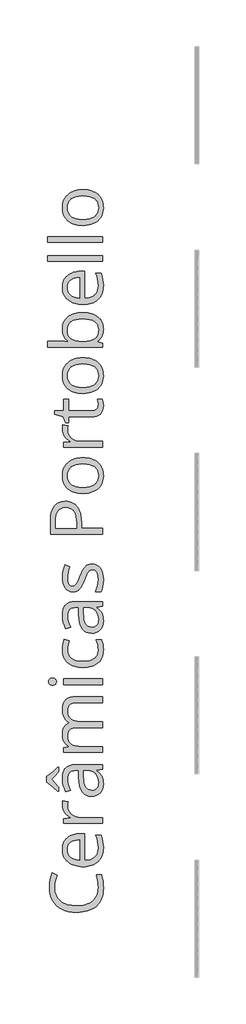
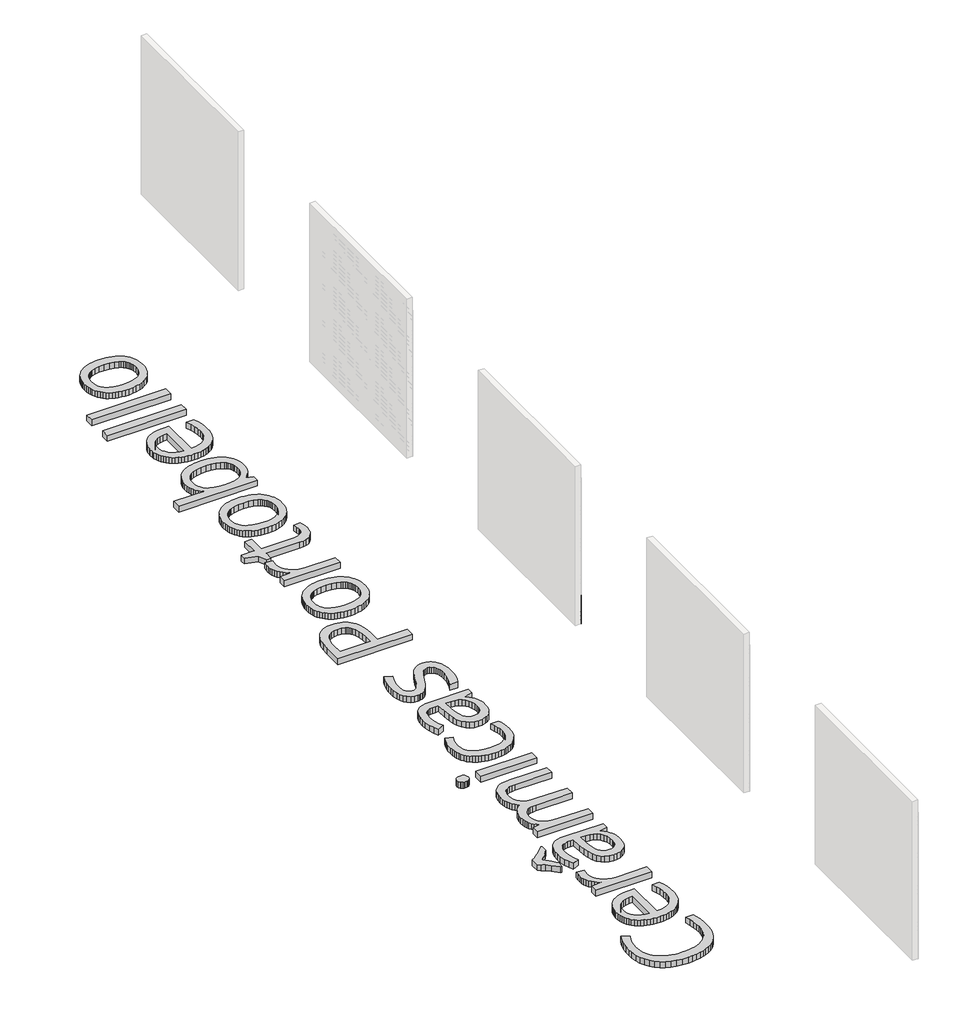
# One storey, part 8 of 45: 22 proxies.
"""IFC4 building model written with IfcOpenShell, lengths in millimetres."""

from ifc_helpers import new_model, si_unit, origin, origin_with_axes, place, context, project, spatial, polyline, outline, extrude, transform, mapped, element, save
from components import generic_models_ab0f2c30

model = new_model("IFC4")

# Units and contexts
model_context = context("Model", 3, world=origin())
ifc_project = project(units=[si_unit("LENGTHUNIT", "METRE", prefix="MILLI")], contexts=[model_context])

# Site, building, storey
site = spatial("IfcSite", under=ifc_project)
building = spatial("IfcBuilding", under=site)
storey = spatial("IfcBuildingStorey", under=building, Name="PORTOBELLO - SHOWROOM", Elevation=0.0)

# Proxies
placement = place(None, origin())
generic_models_shape = generic_models_ab0f2c30(model_context)
element("IfcBuildingElementProxy", 1, Name="PBSHOP - HORIZONTES SANTORINI 6,5X23 : SANTORINI VILLA", ObjectType="PBSHOP - HORIZONTES SANTORINI 6,5X23 : SANTORINI VILLA", at=placement, inside=storey, context=model_context, shape_type="MappedRepresentation", body=[
    mapped(generic_models_shape, transform((63939.1036979, 10492.0312463, 34.5), x_axis=(0.0, 0.0, 1.0), y_axis=(0.0, -1.0, 0.0), z_axis=(1.0, 0.0, 0.0))),
])
element("IfcBuildingElementProxy", 2, Name="PBSHOP - HORIZONTES SANTORINI 6,5X23 : SANTORINI VILLA", ObjectType="PBSHOP - HORIZONTES SANTORINI 6,5X23 : SANTORINI VILLA", at=placement, inside=storey, context=model_context, shape_type="MappedRepresentation", body=[
    mapped(generic_models_shape, transform((63939.1036979, 10726.0312463, 34.5), x_axis=(0.0, 0.0, 1.0), y_axis=(0.0, -1.0, 0.0), z_axis=(1.0, 0.0, 0.0))),
])
element("IfcBuildingElementProxy", 3, Name="PBSHOP - HORIZONTES SANTORINI 6,5X23 : SANTORINI VILLA", ObjectType="PBSHOP - HORIZONTES SANTORINI 6,5X23 : SANTORINI VILLA", at=placement, inside=storey, context=model_context, shape_type="MappedRepresentation", body=[
    mapped(generic_models_shape, transform((63939.1036979, 10960.0312463, 34.5), x_axis=(0.0, 0.0, 1.0), y_axis=(0.0, -1.0, 0.0), z_axis=(1.0, 0.0, 0.0))),
])
element("IfcBuildingElementProxy", 4, Name="PBSHOP - HORIZONTES SANTORINI 6,5X23 : SANTORINI VILLA", ObjectType="PBSHOP - HORIZONTES SANTORINI 6,5X23 : SANTORINI VILLA", at=placement, inside=storey, context=model_context, shape_type="MappedRepresentation", body=[
    mapped(generic_models_shape, transform((63939.1036979, 10492.0312463, 103.5), x_axis=(0.0, 0.0, 1.0), y_axis=(0.0, -1.0, 0.0), z_axis=(1.0, 0.0, 0.0))),
])
element("IfcBuildingElementProxy", 5, Name="PBSHOP - HORIZONTES SANTORINI 6,5X23 : SANTORINI VILLA", ObjectType="PBSHOP - HORIZONTES SANTORINI 6,5X23 : SANTORINI VILLA", at=placement, inside=storey, context=model_context, shape_type="MappedRepresentation", body=[
    mapped(generic_models_shape, transform((63939.1036979, 10726.0312463, 103.5), x_axis=(0.0, 0.0, 1.0), y_axis=(0.0, -1.0, 0.0), z_axis=(1.0, 0.0, 0.0))),
])
element("IfcBuildingElementProxy", 6, Name="PBSHOP - HORIZONTES SANTORINI 6,5X23 : SANTORINI VILLA", ObjectType="PBSHOP - HORIZONTES SANTORINI 6,5X23 : SANTORINI VILLA", at=placement, inside=storey, context=model_context, shape_type="MappedRepresentation", body=[
    mapped(generic_models_shape, transform((63939.1036979, 10960.0312463, 103.5), x_axis=(0.0, 0.0, 1.0), y_axis=(0.0, -1.0, 0.0), z_axis=(1.0, 0.0, 0.0))),
])
element("IfcBuildingElementProxy", 7, Name="PBSHOP - HORIZONTES SANTORINI 6,5X23 : SANTORINI VILLA", ObjectType="PBSHOP - HORIZONTES SANTORINI 6,5X23 : SANTORINI VILLA", at=placement, inside=storey, context=model_context, shape_type="MappedRepresentation", body=[
    mapped(generic_models_shape, transform((63939.1036979, 10492.0312463, 172.5), x_axis=(0.0, 0.0, 1.0), y_axis=(0.0, -1.0, 0.0), z_axis=(1.0, 0.0, 0.0))),
])
element("IfcBuildingElementProxy", 8, Name="PBSHOP - HORIZONTES SANTORINI 6,5X23 : SANTORINI VILLA", ObjectType="PBSHOP - HORIZONTES SANTORINI 6,5X23 : SANTORINI VILLA", at=placement, inside=storey, context=model_context, shape_type="MappedRepresentation", body=[
    mapped(generic_models_shape, transform((63939.1036979, 10726.0312463, 172.5), x_axis=(0.0, 0.0, 1.0), y_axis=(0.0, -1.0, 0.0), z_axis=(1.0, 0.0, 0.0))),
])
element("IfcBuildingElementProxy", 9, Name="PBSHOP - HORIZONTES SANTORINI 6,5X23 : SANTORINI VILLA", ObjectType="PBSHOP - HORIZONTES SANTORINI 6,5X23 : SANTORINI VILLA", at=placement, inside=storey, context=model_context, shape_type="MappedRepresentation", body=[
    mapped(generic_models_shape, transform((63939.1036979, 10960.0312463, 172.5), x_axis=(0.0, 0.0, 1.0), y_axis=(0.0, -1.0, 0.0), z_axis=(1.0, 0.0, 0.0))),
])
element("IfcBuildingElementProxy", 10, Name="PBSHOP - HORIZONTES SANTORINI 6,5X23 : SANTORINI VILLA", ObjectType="PBSHOP - HORIZONTES SANTORINI 6,5X23 : SANTORINI VILLA", at=placement, inside=storey, context=model_context, shape_type="MappedRepresentation", body=[
    mapped(generic_models_shape, transform((63939.1036979, 10492.0312463, 241.5), x_axis=(0.0, 0.0, 1.0), y_axis=(0.0, -1.0, 0.0), z_axis=(1.0, 0.0, 0.0))),
])
element("IfcBuildingElementProxy", 11, Name="PBSHOP - HORIZONTES SANTORINI 6,5X23 : SANTORINI VILLA", ObjectType="PBSHOP - HORIZONTES SANTORINI 6,5X23 : SANTORINI VILLA", at=placement, inside=storey, context=model_context, shape_type="MappedRepresentation", body=[
    mapped(generic_models_shape, transform((63939.1036979, 10726.0312463, 241.5), x_axis=(0.0, 0.0, 1.0), y_axis=(0.0, -1.0, 0.0), z_axis=(1.0, 0.0, 0.0))),
])
element("IfcBuildingElementProxy", 12, Name="PBSHOP - HORIZONTES SANTORINI 6,5X23 : SANTORINI VILLA", ObjectType="PBSHOP - HORIZONTES SANTORINI 6,5X23 : SANTORINI VILLA", at=placement, inside=storey, context=model_context, shape_type="MappedRepresentation", body=[
    mapped(generic_models_shape, transform((63939.1036979, 10960.0312463, 241.5), x_axis=(0.0, 0.0, 1.0), y_axis=(0.0, -1.0, 0.0), z_axis=(1.0, 0.0, 0.0))),
])
element("IfcBuildingElementProxy", 13, Name="PBSHOP - HORIZONTES SANTORINI 6,5X23 : SANTORINI VILLA", ObjectType="PBSHOP - HORIZONTES SANTORINI 6,5X23 : SANTORINI VILLA", at=placement, inside=storey, context=model_context, shape_type="MappedRepresentation", body=[
    mapped(generic_models_shape, transform((63939.1036979, 10492.0312463, 310.5), x_axis=(0.0, 0.0, 1.0), y_axis=(0.0, -1.0, 0.0), z_axis=(1.0, 0.0, 0.0))),
])
element("IfcBuildingElementProxy", 14, Name="PBSHOP - HORIZONTES SANTORINI 6,5X23 : SANTORINI VILLA", ObjectType="PBSHOP - HORIZONTES SANTORINI 6,5X23 : SANTORINI VILLA", at=placement, inside=storey, context=model_context, shape_type="MappedRepresentation", body=[
    mapped(generic_models_shape, transform((63939.1036979, 10726.0312463, 310.5), x_axis=(0.0, 0.0, 1.0), y_axis=(0.0, -1.0, 0.0), z_axis=(1.0, 0.0, 0.0))),
])
element("IfcBuildingElementProxy", 15, Name="PBSHOP - HORIZONTES SANTORINI 6,5X23 : SANTORINI VILLA", ObjectType="PBSHOP - HORIZONTES SANTORINI 6,5X23 : SANTORINI VILLA", at=placement, inside=storey, context=model_context, shape_type="MappedRepresentation", body=[
    mapped(generic_models_shape, transform((63939.1036979, 10960.0312463, 310.5), x_axis=(0.0, 0.0, 1.0), y_axis=(0.0, -1.0, 0.0), z_axis=(1.0, 0.0, 0.0))),
])
element("IfcBuildingElementProxy", 16, Name="PBSHOP - HORIZONTES SANTORINI 6,5X23 : SANTORINI VILLA", ObjectType="PBSHOP - HORIZONTES SANTORINI 6,5X23 : SANTORINI VILLA", at=placement, inside=storey, context=model_context, shape_type="MappedRepresentation", body=[
    mapped(generic_models_shape, transform((63939.1036979, 10492.0312463, 379.5), x_axis=(0.0, 0.0, 1.0), y_axis=(0.0, -1.0, 0.0), z_axis=(1.0, 0.0, 0.0))),
])
element("IfcBuildingElementProxy", 17, Name="PBSHOP - HORIZONTES SANTORINI 6,5X23 : SANTORINI VILLA", ObjectType="PBSHOP - HORIZONTES SANTORINI 6,5X23 : SANTORINI VILLA", at=placement, inside=storey, context=model_context, shape_type="MappedRepresentation", body=[
    mapped(generic_models_shape, transform((63939.1036979, 10726.0312463, 379.5), x_axis=(0.0, 0.0, 1.0), y_axis=(0.0, -1.0, 0.0), z_axis=(1.0, 0.0, 0.0))),
])
element("IfcBuildingElementProxy", 18, Name="PBSHOP - HORIZONTES SANTORINI 6,5X23 : SANTORINI VILLA", ObjectType="PBSHOP - HORIZONTES SANTORINI 6,5X23 : SANTORINI VILLA", at=placement, inside=storey, context=model_context, shape_type="MappedRepresentation", body=[
    mapped(generic_models_shape, transform((63939.1036979, 10960.0312463, 379.5), x_axis=(0.0, 0.0, 1.0), y_axis=(0.0, -1.0, 0.0), z_axis=(1.0, 0.0, 0.0))),
])
element("IfcBuildingElementProxy", 19, Name="PBSHOP - HORIZONTES SANTORINI 6,5X23 : SANTORINI VILLA", ObjectType="PBSHOP - HORIZONTES SANTORINI 6,5X23 : SANTORINI VILLA", at=placement, inside=storey, context=model_context, shape_type="MappedRepresentation", body=[
    mapped(generic_models_shape, transform((63939.1036979, 10492.0312463, 448.5), x_axis=(0.0, 0.0, 1.0), y_axis=(0.0, -1.0, 0.0), z_axis=(1.0, 0.0, 0.0))),
])
element("IfcBuildingElementProxy", 20, Name="PBSHOP - HORIZONTES SANTORINI 6,5X23 : SANTORINI VILLA", ObjectType="PBSHOP - HORIZONTES SANTORINI 6,5X23 : SANTORINI VILLA", at=placement, inside=storey, context=model_context, shape_type="MappedRepresentation", body=[
    mapped(generic_models_shape, transform((63939.1036979, 10726.0312463, 448.5), x_axis=(0.0, 0.0, 1.0), y_axis=(0.0, -1.0, 0.0), z_axis=(1.0, 0.0, 0.0))),
])
element("IfcBuildingElementProxy", 21, Name="PBSHOP - HORIZONTES SANTORINI 6,5X23 : SANTORINI VILLA", ObjectType="PBSHOP - HORIZONTES SANTORINI 6,5X23 : SANTORINI VILLA", at=placement, inside=storey, context=model_context, shape_type="MappedRepresentation", body=[
    mapped(generic_models_shape, transform((63939.1036979, 10960.0312463, 448.5), x_axis=(0.0, 0.0, 1.0), y_axis=(0.0, -1.0, 0.0), z_axis=(1.0, 0.0, 0.0))),
])
element("IfcBuildingElementProxy", 22, Name="1200mm OpenSans", ObjectType="1200mm OpenSans", at=placement, inside=storey, context=model_context, shape_type="SweptSolid", body=[
    extrude(outline(polyline([(60602.2178504, 3067.1556678), (60604.3388977, 3018.9715574), (60610.7020396, 2973.3901665), (60621.3072761, 2930.411495), (60636.1546072, 2890.0355428), (60655.2440329, 2852.26231), (60678.5755531, 2817.0917967), (60706.149168, 2784.5240027), (60737.9648775, 2754.5589281), (60773.4705896, 2727.6866954), (60812.1142122, 2704.3974271), (60853.8957455, 2684.6911231), (60898.8151895, 2668.5677835), (60946.872544, 2656.0274082), (60998.0678091, 2647.0699973), (61052.4009849, 2641.6955508), (61109.8720712, 2639.9040686), (61168.813525, 2641.6307645), (61224.3128543, 2646.8108521), (61276.3700589, 2655.4443315), (61324.985139, 2667.5312026), (61370.1580946, 2683.0714655), (61411.8889256, 2702.0651201), (61450.177632, 2724.5121665), (61485.0242138, 2750.4126046), (61516.0793884, 2779.5072892), (61542.993873, 2811.5370752), (61565.7676677, 2846.5019625), (61584.4007725, 2884.401951), (61598.8931873, 2925.2370409), (61609.2449122, 2969.0072321), (61615.4559471, 3015.7125246), (61617.526292, 3065.3529184), (61614.7094962, 3130.4547048), (61606.2591085, 3199.9281584), (61592.1751291, 3273.7732792), (61572.457558, 3351.9900673), (61689.2757167, 3351.9900673), (61708.3623256, 3285.9643718), (61721.9956177, 3212.6375414), (61730.1755929, 3132.0095761), (61732.9022513, 3044.0804759), (61730.3643182, 2979.6321862), (61722.750519, 2918.9696701), (61710.0608535, 2862.0929277), (61692.2953219, 2809.0019589), (61669.4539241, 2759.6967638), (61641.5366601, 2714.1773424), (61608.54353, 2672.4436946), (61570.4745337, 2634.4958205), (61527.7296562, 2600.6942699), (61480.7088825, 2571.3995928), (61429.4122127, 2546.611789), (61373.8396468, 2526.3308587), (61313.9911847, 2510.5568017), (61249.8668265, 2499.2896182), (61181.4665721, 2492.5293081), (61108.7904216, 2490.2758714), (61017.954388, 2494.613737), (60932.9322212, 2507.627334), (60853.723921, 2529.3166623), (60780.3294875, 2559.6817219), (60713.8869063, 2598.2380239), (60655.5341628, 2644.5010795), (60605.2712571, 2698.4708885), (60563.0981892, 2760.1474511), (60529.7360588, 2828.5730567), (60505.9059656, 2902.7899945), (60491.6079097, 2982.7982647), (60486.8418911, 3068.5978673), (60490.8304741, 3160.0873975), (60502.796223, 3245.6278548), (60522.7391378, 3325.2192392), (60550.6592186, 3398.8615507), (60666.3957277, 3339.7313716), (60638.3179064, 3271.5874456), (60618.2623197, 3203.4435197), (60606.2289677, 3135.2995937), (60602.2178504, 3067.1556678)])), origin_with_axes(), (0.0, 0.0, 1.0), 100.0),
    extrude(outline(polyline([(61732.9022513, 3975.0202474), (61730.9755629, 3926.3967169), (61725.1954978, 3880.3984401), (61715.5620559, 3837.0254172), (61702.0752372, 3796.2776479), (61684.7350418, 3758.1551325), (61663.5414696, 3722.6578708), (61638.4945206, 3689.7858629), (61609.5941948, 3659.5391087), (61577.2742789, 3632.4133644), (61541.9685593, 3608.904386), (61503.6770361, 3589.0121734), (61462.3997093, 3572.7367268), (61418.1365788, 3560.0780462), (61370.8876447, 3551.0361314), (61320.652907, 3545.6109825), (61267.4323656, 3543.8025996), (61213.6850834, 3545.4814099), (61162.7714979, 3550.5178409), (61114.691609, 3558.9118927), (61069.4454167, 3570.6635651), (61027.0329212, 3585.7728582), (60987.4541222, 3604.239772), (60950.70902, 3626.0643065), (60916.7976144, 3651.2464616), (60886.3339669, 3679.2566799), (60859.9321391, 3709.5654035), (60837.592131, 3742.1726327), (60819.3139425, 3777.0783672), (60805.0975737, 3814.2826072), (60794.9430246, 3853.7853526), (60788.8502951, 3895.5866035), (60786.8193852, 3939.6863598), (60788.616501, 3981.0312898), (60794.0078483, 4020.1565846), (60802.9934272, 4057.0622442), (60815.5732376, 4091.7482687), (60831.7472795, 4124.214658), (60851.515553, 4154.4614121), (60874.8780581, 4182.4885312), (60901.8347946, 4208.296015), (60931.7378997, 4231.4500772), (60963.9395102, 4251.516931), (60998.4396262, 4268.4965766), (61035.2382476, 4282.3890139), (61074.3353744, 4293.1942429), (61115.7310067, 4300.9122636), (61159.4251444, 4305.543076), (61205.4177875, 4307.0866802), (61294.4736061, 4307.0866802), (61294.4736061, 3685.4986995), (61369.0172923, 3691.9998644), (61434.0064068, 3707.5373105), (61489.4409498, 3732.1110378), (61513.5752569, 3747.7865069), (61535.3209211, 3765.7210462), (61554.5878049, 3785.7512817), (61571.2857709, 3807.7138392), (61596.9749493, 3857.4359201), (61612.3884564, 3914.8872889), (61617.526292, 3980.0679456), (61613.717984, 4052.6962106), (61602.2930599, 4124.918857), (61583.2515198, 4196.7358847), (61556.5933636, 4268.1472939), (61676.2959213, 4268.1472939), (61702.3005809, 4197.6597938), (61719.742181, 4131.1383423), (61729.6122337, 4059.8396049), (61732.9022513, 3975.0202474)]), holes=[polyline([(60902.1953445, 3938.2441603), (60906.7923554, 3886.7193301), (60920.583388, 3840.670351), (60943.5684424, 3800.0972232), (60975.7475186, 3764.9999465), (61016.0389668, 3735.9644145), (61063.3611376, 3713.5765209), (61117.714031, 3697.8362655), (61179.0976468, 3688.7436484), (61179.0976468, 4160.7034318), (61115.9563503, 4157.0979331), (61060.6570136, 4146.2814369), (61013.1996366, 4128.2539433), (60973.5842193, 4103.0154522), (60942.3515866, 4071.0842541), (60920.0425632, 4032.9786394), (60906.6571492, 3988.6986082), (60902.1953445, 3938.2441603)])]), origin_with_axes(), (0.0, 0.0, 1.0), 100.0),
    extrude(outline(polyline([(60786.8193852, 4954.2737017), (60789.0728219, 5011.7814064), (60795.8331321, 5063.1597633), (60914.4540402, 5044.05062), (60905.2600184, 4990.8695138), (60902.1953445, 4944.5388552), (60907.8402035, 4891.2112756), (60924.7747803, 4841.9173476), (60952.999075, 4796.6570714), (60992.5130876, 4755.4304469), (61040.4549535, 4721.1218731), (61093.9628081, 4696.6157489), (61153.0366513, 4681.9120744), (61217.6764832, 4677.0108496), (61709.8270595, 4677.0108496), (61709.8270595, 4540.7229977), (60809.8945771, 4540.7229977), (60809.8945771, 4653.214558), (60971.4209201, 4668.7182025), (60971.4209201, 4675.2081002), (60929.6196692, 4701.9113252), (60892.9111853, 4731.183468), (60861.2954683, 4763.0245286), (60834.7725183, 4797.4345071), (60813.7930226, 4834.0077848), (60798.8076685, 4872.3387432), (60789.8164561, 4912.4273821), (60786.8193852, 4954.2737017)])), origin_with_axes(), (0.0, 0.0, 1.0), 100.0),
    extrude(outline(polyline([(61709.8270595, 5793.6338055), (61578.2263559, 5766.2320152), (61578.2263559, 5759.3815676), (61619.8247975, 5725.3434062), (61654.1221041, 5691.3728478), (61681.1182759, 5657.4698926), (61700.8133126, 5623.6345405), (61714.8522233, 5587.7260266), (61724.8800167, 5547.6035861), (61730.8966927, 5503.2672189), (61732.9022513, 5454.7169251), (61728.4291795, 5390.6066509), (61715.0099639, 5333.8425803), (61692.6446046, 5284.4247133), (61661.3331016, 5242.3530501), (61621.7740202, 5208.7543088), (61574.6659259, 5184.7552079), (61520.0088187, 5170.3557473), (61457.8026984, 5165.5559272), (61391.2530789, 5172.4627107), (61333.1200455, 5193.1830612), (61283.4035983, 5227.7169787), (61242.103737, 5276.0644632), (61209.2204619, 5338.2255147), (61184.7537729, 5414.2001332), (61168.70367, 5503.9883187), (61161.0701531, 5607.5900711), (61156.0224549, 5762.2659666), (61101.939974, 5762.2659666), (61054.2459862, 5759.3815676), (61013.1996366, 5750.7283706), (60978.8009253, 5736.3063757), (60951.0498523, 5716.1155828), (60929.6760051, 5689.5700985), (60914.4089715, 5656.084029), (60905.2487513, 5615.6573746), (60902.1953445, 5568.290135), (60906.521943, 5509.2951621), (60919.5017384, 5446.604553), (60941.1347308, 5380.2183076), (60971.4209201, 5310.1364261), (60866.1403572, 5267.5915411), (60833.0148377, 5338.1691787), (60807.9115528, 5415.0564391), (60792.0924271, 5495.2787858), (60786.8193852, 5575.8616823), (60791.3262586, 5652.0616445), (60804.8468789, 5717.6929885), (60827.3812459, 5772.7557144), (60842.0285845, 5796.3238456), (60858.9293598, 5817.2498221), (60878.314549, 5835.6294153), (60900.4151295, 5851.558396), (60925.2311012, 5865.0367643), (60952.7624642, 5876.0645201), (61015.9713637, 5890.7681946), (61090.0418282, 5895.6694195), (61709.8270595, 5895.6694195), (61709.8270595, 5793.6338055)]), holes=[polyline([(61617.526292, 5481.7581656), (61613.165892, 5543.0065752), (61600.084692, 5597.3143998), (61578.2826918, 5644.6816393), (61547.7598917, 5685.1082938), (61509.3951318, 5717.4451105), (61464.0672525, 5740.5428367), (61411.7762537, 5754.4014725), (61352.5221356, 5759.0210177), (61271.3984142, 5759.0210177), (61277.1672122, 5620.2093167), (61282.4853228, 5543.3896594), (61292.6708567, 5478.0625294), (61307.7238139, 5424.2279265), (61327.6441944, 5381.8858508), (61353.0854948, 5349.8645152), (61384.7012117, 5326.9921327), (61422.4913453, 5313.2687032), (61466.4558954, 5308.6942266), (61501.2038894, 5311.5448241), (61531.5351474, 5320.0966164), (61557.4496695, 5334.3496035), (61578.9474557, 5354.3037855), (61595.8256966, 5379.3732689), (61607.8815829, 5408.97216), (61615.1151148, 5443.1004589), (61617.526292, 5481.7581656)])]), origin_with_axes(), (0.0, 0.0, 1.0), 100.0),
    extrude(outline(polyline([(60675.0489247, 5283.8162854), (60575.5371598, 5372.1510042), (60506.3115842, 5429.478434), (60457.0965266, 5465.5334213), (60417.6163155, 5490.0508126), (60417.6163155, 5625.9781147), (60458.1781762, 5650.6307122), (60509.1959832, 5688.5335176), (60578.7821087, 5747.5284905), (60675.0489247, 5835.4575907), (60694.5186178, 5835.4575907), (60694.5186178, 5738.1091251), (60666.8013463, 5699.7556324), (60630.8815653, 5656.8051288), (60534.4344743, 5557.113089), (60632.1434898, 5456.6098119), (60667.7477898, 5414.5381487), (60694.5186178, 5377.9198022), (60694.5186178, 5283.8162854), (60675.0489247, 5283.8162854)])), origin_with_axes(), (0.0, 0.0, 1.0), 100.0),
    extrude(outline(polyline([(61709.8270595, 7329.2157135), (61119.2463679, 7329.2157135), (61068.3750343, 7326.3313145), (61024.2865452, 7317.6781176), (60986.9809005, 7303.2561227), (60956.4581004, 7283.0653298), (60932.7181447, 7256.7902578), (60915.7610335, 7224.1154256), (60905.5867668, 7185.0408331), (60902.1953445, 7139.5664804), (60906.8036226, 7079.9180109), (60920.6284568, 7028.6072571), (60943.6698471, 6985.6342191), (60975.9277935, 6950.998897), (61017.7628459, 6924.3407408), (61069.5355542, 6905.2992006), (61131.2459184, 6893.8742765), (61202.8939384, 6890.0659685), (61709.8270595, 6890.0659685), (61709.8270595, 6753.4175667), (61119.2463679, 6753.4175667), (61068.3750343, 6750.5331678), (61024.2865452, 6741.8799708), (60986.9809005, 6727.4579759), (60956.4581004, 6707.267183), (60932.7181447, 6680.9470423), (60915.7610335, 6648.1370039), (60905.5867668, 6608.8370678), (60902.1953445, 6563.0472339), (60907.0402334, 6502.9931457), (60921.5749002, 6451.5471858), (60945.7993448, 6408.709354), (60961.5452337, 6390.5184862), (60979.7135672, 6374.4796505), (61024.647095, 6348.294716), (61081.9294561, 6329.5911913), (61151.5606503, 6318.3690765), (61233.5406776, 6314.6283716), (61709.8270595, 6314.6283716), (61709.8270595, 6178.3405197), (60809.8945771, 6178.3405197), (60809.8945771, 6289.3898805), (60925.2705364, 6311.3834227), (60925.2705364, 6317.8733205), (60894.4322551, 6339.3147707), (60867.1769381, 6364.6997352), (60843.5045855, 6394.0282139), (60823.4151973, 6427.3002068), (60807.4045295, 6463.591805), (60795.9683383, 6501.9790992), (60789.1066235, 6542.4620896), (60786.8193852, 6585.0407762), (60789.1854938, 6635.6642317), (60796.2838194, 6681.7132108), (60808.1143621, 6723.1877133), (60824.6771219, 6760.0877394), (60845.9720987, 6792.4132889), (60871.9992927, 6820.1643619), (60902.7587037, 6843.3409584), (60938.2503318, 6861.9430784), (60938.2503318, 6868.4329761), (60905.1022779, 6890.8884729), (60875.6047914, 6917.8733774), (60849.7578724, 6949.3876898), (60827.5615209, 6985.4314098), (60809.7368365, 7025.0806287), (60797.0049191, 7067.4114372), (60789.3657687, 7112.4238353), (60786.8193852, 7160.1178232), (60791.7544116, 7231.9235838), (60806.5594908, 7294.1071696), (60817.6633001, 7321.5906471), (60831.2346227, 7346.6685808), (60847.2734584, 7369.3409708), (60865.7798074, 7389.6078172), (60887.0015475, 7407.4803871), (60911.186557, 7422.9699476), (60938.3348357, 7436.0764988), (60968.4463836, 7446.8000408), (61037.5592874, 7461.0980966), (61118.5252682, 7465.8641153), (61709.8270595, 7465.8641153), (61709.8270595, 7329.2157135)])), origin_with_axes(), (0.0, 0.0, 1.0), 100.0),
    extrude(outline(polyline([(61709.8270595, 7879.7753692), (61709.8270595, 7743.4875173), (60809.8945771, 7743.4875173), (60809.8945771, 7879.7753692), (61709.8270595, 7879.7753692)])), origin_with_axes(), (0.0, 0.0, 1.0), 100.0),
    extrude(outline(polyline([(60555.7069168, 7731.9499214), (60533.4992981, 7733.3921209), (60514.4690251, 7737.7187193), (60498.6160979, 7744.9297168), (60485.9405164, 7755.0251132), (60469.3101536, 7780.9847041), (60463.7666993, 7812.7130929), (60469.400291, 7843.2696946), (60486.3010663, 7869.3194229), (60499.0893196, 7879.7303005), (60514.9197125, 7887.1666416), (60533.7922449, 7891.6284463), (60555.7069168, 7893.1157145), (60577.6441231, 7891.6284463), (60596.5842586, 7887.1666416), (60612.5273233, 7879.7303005), (60625.4733172, 7869.3194229), (60642.6445049, 7843.2696946), (60648.3682341, 7812.7130929), (60642.6445049, 7780.9847041), (60635.4898433, 7767.2838089), (60625.4733172, 7755.0251132), (60612.5273233, 7744.9297168), (60596.5842586, 7737.7187193), (60577.6441231, 7733.3921209), (60555.7069168, 7731.9499214)])), origin_with_axes(), (0.0, 0.0, 1.0), 100.0),
    extrude(outline(polyline([(61732.9022513, 8549.6770328), (61730.9952805, 8501.7633348), (61725.2743681, 8456.6326312), (61715.739514, 8414.2849219), (61702.3907183, 8374.720207), (61685.227981, 8337.9384864), (61664.2513021, 8303.9397601), (61639.4606816, 8272.7240282), (61610.8561194, 8244.2912905), (61578.7643639, 8218.9401276), (61543.5121635, 8196.9691197), (61505.0995181, 8178.3782669), (61463.5264276, 8163.1675692), (61418.7928923, 8151.3370265), (61370.8989119, 8142.8866388), (61319.8444866, 8137.8164062), (61265.6296162, 8136.1263287), (61210.0176152, 8137.8417574), (61157.6561965, 8142.9880435), (61108.5453604, 8151.5651869), (61062.6851066, 8163.5731878), (61020.0754353, 8179.012046), (60980.7163465, 8197.8817616), (60944.6078401, 8220.1823346), (60911.7499161, 8245.913765), (60882.469323, 8274.8169075), (60857.0928089, 8306.632617), (60835.6203739, 8341.3608934), (60818.052018, 8379.0017367), (60804.3877411, 8419.555147), (60794.6275434, 8463.0211243), (60788.7714248, 8509.3996685), (60786.8193852, 8558.6907796), (60790.1544716, 8624.2657877), (60800.1597305, 8689.7506583), (60814.6718629, 8748.114669), (60831.5275695, 8792.3270971), (60944.3796796, 8750.142762), (60927.8394542, 8702.3248351), (60914.2737653, 8650.4507222), (60905.2149497, 8599.6582589), (60902.1953445, 8555.0852808), (60907.8345699, 8490.1017999), (60924.7522459, 8433.782783), (60952.9483727, 8386.1282303), (60992.4229502, 8347.1381417), (61043.1759784, 8316.8125173), (61105.2074572, 8295.151357), (61178.5173868, 8282.1546608), (61263.1057671, 8277.8224287), (61343.7562668, 8282.0476225), (61414.4465762, 8294.723204), (61475.1766954, 8315.8491731), (61525.9466244, 8345.4255298), (61547.410609, 8363.3431684), (61566.012729, 8383.2945337), (61581.7529844, 8405.2796255), (61594.6313751, 8429.298444), (61604.6479013, 8455.3509891), (61611.8025628, 8483.4372608), (61617.526292, 8545.7109842), (61614.4841525, 8603.0158796), (61605.3577338, 8660.996806), (61590.1470361, 8719.6537634), (61568.8520592, 8778.9867518), (61687.4729674, 8778.9867518), (61707.3482791, 8730.4477252), (61721.5449303, 8676.0497631), (61730.0629211, 8615.7928657), (61732.9022513, 8549.6770328)])), origin_with_axes(), (0.0, 0.0, 1.0), 100.0),
    extrude(outline(polyline([(61709.8270595, 9554.890078), (61578.2263559, 9527.4882876), (61578.2263559, 9520.6378401), (61619.8247975, 9486.5996786), (61654.1221041, 9452.6291203), (61681.1182759, 9418.7261651), (61700.8133126, 9384.890813), (61714.8522233, 9348.9822991), (61724.8800167, 9308.8598586), (61730.8966927, 9264.5234914), (61732.9022513, 9215.9731976), (61728.4291795, 9151.8629233), (61715.0099639, 9095.0988527), (61692.6446046, 9045.6809858), (61661.3331016, 9003.6093225), (61621.7740202, 8970.0105813), (61574.6659259, 8946.0114804), (61520.0088187, 8931.6120198), (61457.8026984, 8926.8121996), (61391.2530789, 8933.7189831), (61333.1200455, 8954.4393336), (61283.4035983, 8988.9732511), (61242.103737, 9037.3207356), (61209.2204619, 9099.4817871), (61184.7537729, 9175.4564056), (61168.70367, 9265.2445911), (61161.0701531, 9368.8463436), (61156.0224549, 9523.522239), (61101.939974, 9523.522239), (61054.2459862, 9520.6378401), (61013.1996366, 9511.9846431), (60978.8009253, 9497.5626482), (60951.0498523, 9477.3718553), (60929.6760051, 9450.8263709), (60914.4089715, 9417.3403015), (60905.2487513, 9376.913647), (60902.1953445, 9329.5464075), (60906.521943, 9270.5514346), (60919.5017384, 9207.8608254), (60941.1347308, 9141.4745801), (60971.4209201, 9071.3926986), (60866.1403572, 9028.8478136), (60833.0148377, 9099.4254512), (60807.9115528, 9176.3127116), (60792.0924271, 9256.5350583), (60786.8193852, 9337.1179548), (60791.3262586, 9413.317917), (60804.8468789, 9478.949261), (60827.3812459, 9534.0119869), (60842.0285845, 9557.580118), (60858.9293598, 9578.5060946), (60878.314549, 9596.8856878), (60900.4151295, 9612.8146685), (60925.2311012, 9626.2930367), (60952.7624642, 9637.3207926), (61015.9713637, 9652.0244671), (61090.0418282, 9656.925692), (61709.8270595, 9656.925692), (61709.8270595, 9554.890078)]), holes=[polyline([(61617.526292, 9243.014438), (61613.165892, 9304.2628477), (61600.084692, 9358.5706723), (61578.2826918, 9405.9379118), (61547.7598917, 9446.3645663), (61509.3951318, 9478.701383), (61464.0672525, 9501.7991092), (61411.7762537, 9515.6577449), (61352.5221356, 9520.2772902), (61271.3984142, 9520.2772902), (61277.1672122, 9381.4655892), (61282.4853228, 9304.6459319), (61292.6708567, 9239.3188018), (61307.7238139, 9185.484199), (61327.6441944, 9143.1421233), (61353.0854948, 9111.1207877), (61384.7012117, 9088.2484052), (61422.4913453, 9074.5249756), (61466.4558954, 9069.9504991), (61501.2038894, 9072.8010966), (61531.5351474, 9081.3528888), (61557.4496695, 9095.605876), (61578.9474557, 9115.560058), (61595.8256966, 9140.6295414), (61607.8815829, 9170.2284325), (61615.1151148, 9204.3567314), (61617.526292, 9243.014438)])]), origin_with_axes(), (0.0, 0.0, 1.0), 100.0),
    extrude(outline(polyline([(61467.1769951, 10524.4086858), (61527.3324879, 10518.5159488), (61554.6638584, 10511.1500276), (61580.1643115, 10500.8377378), (61603.8338473, 10487.5790796), (61625.6724657, 10471.3740529), (61645.6801669, 10452.2226577), (61663.8569507, 10430.1248941), (61694.0642697, 10378.2395139), (61715.6409262, 10316.8671653), (61728.58692, 10246.0078481), (61732.9022513, 10165.6615624), (61729.3418213, 10080.6393955), (61718.6605313, 10005.4872814), (61700.8583814, 9940.2052201), (61675.9353714, 9884.7932115), (61548.3007165, 9884.7932115), (61577.0095001, 9952.4864501), (61598.9579736, 10025.047112), (61612.8842124, 10098.5992861), (61617.526292, 10169.2670611), (61615.3855272, 10220.0482573), (61608.9632326, 10264.5874337), (61598.2594082, 10302.8845905), (61583.2740541, 10334.9397276), (61563.8944985, 10360.257089), (61540.0080694, 10378.3409186), (61511.6147669, 10389.1912163), (61478.714591, 10392.8079822), (61453.0028782, 10389.9348504), (61429.229121, 10381.315455), (61407.3933193, 10366.949796), (61387.4954732, 10346.8378735), (61367.710299, 10318.4107694), (61346.2125128, 10279.0995661), (61298.0791048, 10167.8248616), (61253.5511955, 10059.5697623), (61215.1526341, 9987.9104751), (61177.4301036, 9941.3544728), (61156.7773562, 9923.1805058), (61134.9302874, 9908.4092282), (61111.3706066, 9896.9730369), (61085.5800235, 9888.8043289), (61057.5585381, 9883.903104), (61027.3061504, 9882.2693624), (60974.5306627, 9887.9029542), (60927.6141105, 9904.8037295), (60886.5564938, 9932.9716883), (60851.3578125, 9972.4068306), (60823.1222506, 10021.666957), (60802.953992, 10079.3098679), (60790.8530369, 10145.3355633), (60786.8193852, 10219.7440433), (60790.5600902, 10292.3723083), (60801.782205, 10364.2344048), (60820.4857296, 10435.3303328), (60846.6706641, 10505.6600924), (60958.0805748, 10456.6253097), (60933.6307865, 10389.9235832), (60916.1666521, 10326.4668056), (60905.6881714, 10266.2549769), (60902.1953445, 10209.288097), (60904.1220329, 10163.4306601), (60909.902098, 10123.5673648), (60919.53554, 10089.6982111), (60933.0223586, 10061.823199), (60949.9118667, 10040.0550005), (60969.7533769, 10024.5062872), (60992.5468892, 10015.1770593), (61018.2924035, 10012.0673166), (61052.3192978, 10016.7093962), (61080.8478065, 10030.6356351), (61105.9961601, 10054.9276827), (61129.8825892, 10090.6671889), (61158.4110978, 10151.14943), (61197.4856903, 10249.6696827), (61227.0958486, 10323.72888), (61256.7961444, 10384.7406788), (61286.5865776, 10432.7050791), (61316.4671483, 10467.6220808), (61348.3307433, 10492.4662205), (61384.0702494, 10510.2120345), (61423.6856667, 10520.859523), (61467.1769951, 10524.4086858)])), origin_with_axes(), (0.0, 0.0, 1.0), 100.0),
    extrude(outline(polyline([(60853.5211117, 11969.4925757), (60896.9420202, 11967.543353), (60937.7883773, 11961.6956847), (60976.0601829, 11951.949571), (61011.7574371, 11938.3050117), (61044.8801399, 11920.762007), (61075.4282912, 11899.3205568), (61103.4018911, 11873.980661), (61128.8009395, 11844.7423198), (61151.4057265, 11811.8703118), (61170.9965418, 11775.629416), (61187.5733856, 11736.0196324), (61201.1362578, 11693.0409608), (61211.6851583, 11646.6934014), (61219.2200873, 11596.9769541), (61223.7410447, 11543.8916189), (61225.2480305, 11487.4373959), (61225.2480305, 11345.7412959), (61709.8270595, 11345.7412959), (61709.8270595, 11206.2084951), (60509.917083, 11206.2084951), (60509.917083, 11518.4446849), (60515.2858959, 11624.1590343), (60531.3923348, 11715.7781372), (60558.2363995, 11793.3019934), (60595.8180902, 11856.730603), (60644.1374067, 11906.0639661), (60703.1943491, 11941.3020826), (60772.9889175, 11962.4449524), (60853.5211117, 11969.4925757)]), holes=[polyline([(61109.8720712, 11345.7412959), (61109.8720712, 11471.9337514), (61106.1539007, 11558.6910645), (61094.999389, 11632.5587197), (61076.4085362, 11693.5367169), (61050.3813422, 11741.6250562), (61034.3819416, 11761.1454516), (61016.1291043, 11778.0631277), (60995.6228303, 11792.3780843), (60972.8631196, 11804.0903216), (60920.583388, 11819.706638), (60859.2899097, 11824.9120768), (60803.934237, 11820.0108519), (60756.1275773, 11805.3071774), (60715.8699306, 11780.8010533), (60683.1612968, 11746.4924794), (60657.8439354, 11701.8406311), (60639.7601059, 11646.3046836), (60628.9098082, 11579.8846367), (60625.2930422, 11502.5804905), (60625.2930422, 11345.7412959), (61109.8720712, 11345.7412959)])]), origin_with_axes(), (0.0, 0.0, 1.0), 100.0),
    extrude(outline(polyline([(61259.1397185, 12976.8689202), (61313.4052912, 12975.1365907), (61364.6118235, 12969.9396023), (61412.7593155, 12961.277955), (61457.8477672, 12949.1516487), (61499.8771785, 12933.5606835), (61538.8475495, 12914.5050594), (61574.7588802, 12891.9847763), (61607.6111705, 12865.9998343), (61636.9762676, 12836.9671192), (61662.4260184, 12805.3035167), (61683.9604229, 12771.0090268), (61701.5794811, 12734.0836496), (61715.2831931, 12694.5273851), (61725.0715588, 12652.3402332), (61730.9445782, 12607.5221939), (61732.9022513, 12560.0732673), (61729.3080198, 12501.3825083), (61718.5253251, 12446.0944388), (61700.5541674, 12394.2090587), (61675.3945466, 12345.726368), (61643.5196844, 12301.6153445), (61605.4028026, 12262.844966), (61561.043901, 12229.4152324), (61510.4429798, 12201.3261439), (61454.4450777, 12179.0847236), (61393.8952335, 12163.1979949), (61328.7934471, 12153.6659576), (61259.1397185, 12150.4886119), (61204.8854131, 12152.2068573), (61153.7126823, 12157.3615938), (61105.6215262, 12165.9528212), (61060.6119449, 12177.9805397), (61018.6839382, 12193.444749), (60979.8375062, 12212.3454494), (60944.0726489, 12234.6826407), (60911.3893663, 12260.456323), (60882.193277, 12289.2834121), (60856.8899996, 12320.7808236), (60835.4795341, 12354.9485577), (60817.9618805, 12391.7866142), (60804.3370388, 12431.2949932), (60794.6050091, 12473.4736947), (60788.7657912, 12518.3227188), (60786.8193852, 12565.8420653), (60788.8108599, 12611.7755557), (60794.785284, 12655.2922353), (60804.7426574, 12696.392104), (60818.6829802, 12735.0751618), (60836.6062524, 12771.3414087), (60858.512474, 12805.1908448), (60884.4016449, 12836.6234701), (60914.2737653, 12865.6392845), (60947.5429414, 12891.7087303), (60983.6232798, 12914.3022501), (61022.5147806, 12933.4198437), (61064.2174436, 12949.0615113), (61108.7312689, 12961.2272527), (61156.0562565, 12969.917068), (61206.1924064, 12975.1309571), (61259.1397185, 12976.8689202)]), holes=[polyline([(61258.0580689, 12292.1847118), (61340.6239898, 12296.488776), (61412.7339643, 12309.4009683), (61474.3879926, 12330.9212888), (61501.2940268, 12344.9094971), (61525.5860745, 12361.0497375), (61547.134563, 12379.2744069), (61565.8099197, 12399.5159021), (61581.6121446, 12421.7742231), (61594.5412377, 12446.04937), (61604.597199, 12472.3413428), (61611.7800284, 12500.6501414), (61617.526292, 12563.3182162), (61611.8025628, 12626.0088253), (61604.6479013, 12654.3457918), (61594.6313751, 12680.6771997), (61581.7529844, 12705.003049), (61566.012729, 12727.3233395), (61547.410609, 12747.6380714), (61525.9466244, 12765.9472446), (61501.7278134, 12782.1719889), (61474.8612143, 12796.2334339), (61413.1846517, 12817.8664263), (61340.9169365, 12830.8462217), (61258.0580689, 12835.1728202), (61176.0442401, 12830.8462217), (61104.5088919, 12817.8664263), (61043.4520243, 12796.2334339), (61016.8530208, 12782.1719889), (60992.8736375, 12765.9472446), (60971.6209126, 12747.6099035), (60953.2018843, 12727.2106677), (60937.6165527, 12704.7495373), (60924.8649178, 12680.2265124), (60914.9469795, 12653.6415929), (60907.8627378, 12624.9947788), (60902.1953445, 12561.5154668), (60907.7838675, 12498.903728), (60914.7695213, 12470.6653492), (60924.5494366, 12444.4719643), (60937.1236134, 12420.3235733), (60952.4920518, 12398.220176), (60970.6547516, 12378.1617725), (60991.611713, 12360.1483629), (61015.3347679, 12344.2193822), (61041.7957484, 12330.4142655), (61102.9314862, 12309.1756246), (61175.0189264, 12296.43244), (61258.0580689, 12292.1847118)])]), origin_with_axes(), (0.0, 0.0, 1.0), 100.0),
    extrude(outline(polyline([(60786.8193852, 13630.5458395), (60789.0728219, 13688.0535442), (60795.8331321, 13739.431901), (60914.4540402, 13720.3227578), (60905.2600184, 13667.1416516), (60902.1953445, 13620.8109929), (60907.8402035, 13567.4834133), (60924.7747803, 13518.1894854), (60952.999075, 13472.9292092), (60992.5130876, 13431.7025847), (61040.4549535, 13397.3940108), (61093.9628081, 13372.8878867), (61153.0366513, 13358.1842122), (61217.6764832, 13353.2829873), (61709.8270595, 13353.2829873), (61709.8270595, 13216.9951354), (60809.8945771, 13216.9951354), (60809.8945771, 13329.4866957), (60971.4209201, 13344.9903403), (60971.4209201, 13351.480238), (60929.6196692, 13378.1834629), (60892.9111853, 13407.4556057), (60861.2954683, 13439.2966664), (60834.7725183, 13473.7066448), (60813.7930226, 13510.2799226), (60798.8076685, 13548.6108809), (60789.8164561, 13588.6995199), (60786.8193852, 13630.5458395)])), origin_with_axes(), (0.0, 0.0, 1.0), 100.0),
    extrude(outline(polyline([(61617.526292, 14203.0990374), (61612.118044, 14273.7668125), (61600.9409979, 14327.8492934), (61707.6637602, 14327.8492934), (61717.5788817, 14300.1770906), (61725.6912539, 14261.8686667), (61731.099502, 14220.4955688), (61732.9022513, 14183.6293443), (61728.6207216, 14121.7725067), (61715.7761324, 14068.1632475), (61694.3684837, 14022.8015667), (61664.3977755, 13985.6874641), (61625.8640079, 13956.8209399), (61578.7671807, 13936.2019941), (61523.1072941, 13923.8306266), (61458.884348, 13919.7068374), (60925.2705364, 13919.7068374), (60925.2705364, 13789.1877835), (60857.8477102, 13789.1877835), (60799.4386308, 13918.9857377), (60602.2178504, 13977.0342672), (60602.2178504, 14056.3552392), (60809.8945771, 14056.3552392), (60809.8945771, 14321.3593957), (60925.2705364, 14321.3593957), (60925.2705364, 14056.3552392), (61450.591701, 14056.3552392), (61488.6184454, 14058.800218), (61521.935507, 14066.1351545), (61550.542886, 14078.3600486), (61574.4405823, 14095.4749004), (61593.2905803, 14116.8712819), (61606.7548646, 14141.9407652), (61614.8334352, 14170.6833504), (61617.526292, 14203.0990374)])), origin_with_axes(), (0.0, 0.0, 1.0), 100.0),
    extrude(outline(polyline([(61259.1397185, 15284.3881058), (61313.4052912, 15282.6557763), (61364.6118235, 15277.4587879), (61412.7593155, 15268.7971406), (61457.8477672, 15256.6708343), (61499.8771785, 15241.0798691), (61538.8475495, 15222.024245), (61574.7588802, 15199.5039619), (61607.6111705, 15173.5190199), (61636.9762676, 15144.4863047), (61662.4260184, 15112.8227023), (61683.9604229, 15078.5282124), (61701.5794811, 15041.6028352), (61715.2831931, 15002.0465706), (61725.0715588, 14959.8594187), (61730.9445782, 14915.0413795), (61732.9022513, 14867.5924529), (61729.3080198, 14808.9016939), (61718.5253251, 14753.6136243), (61700.5541674, 14701.7282442), (61675.3945466, 14653.2455535), (61643.5196844, 14609.13453), (61605.4028026, 14570.3641515), (61561.043901, 14536.934418), (61510.4429798, 14508.8453295), (61454.4450777, 14486.6039092), (61393.8952335, 14470.7171804), (61328.7934471, 14461.1851432), (61259.1397185, 14458.0077974), (61204.8854131, 14459.7260429), (61153.7126823, 14464.8807794), (61105.6215262, 14473.4720068), (61060.6119449, 14485.4997252), (61018.6839382, 14500.9639346), (60979.8375062, 14519.864635), (60944.0726489, 14542.2018263), (60911.3893663, 14567.9755086), (60882.193277, 14596.8025977), (60856.8899996, 14628.3000092), (60835.4795341, 14662.4677432), (60817.9618805, 14699.3057998), (60804.3370388, 14738.8141788), (60794.6050091, 14780.9928803), (60788.7657912, 14825.8419043), (60786.8193852, 14873.3612508), (60788.8108599, 14919.2947413), (60794.785284, 14962.8114208), (60804.7426574, 15003.9112895), (60818.6829802, 15042.5943474), (60836.6062524, 15078.8605943), (60858.512474, 15112.7100304), (60884.4016449, 15144.1426557), (60914.2737653, 15173.15847), (60947.5429414, 15199.2279159), (60983.6232798, 15221.8214357), (61022.5147806, 15240.9390293), (61064.2174436, 15256.5806968), (61108.7312689, 15268.7464382), (61156.0562565, 15277.4362535), (61206.1924064, 15282.6501427), (61259.1397185, 15284.3881058)]), holes=[polyline([(61258.0580689, 14599.7038974), (61340.6239898, 14604.0079615), (61412.7339643, 14616.9201538), (61474.3879926, 14638.4404744), (61501.2940268, 14652.4286827), (61525.5860745, 14668.5689231), (61547.134563, 14686.7935925), (61565.8099197, 14707.0350877), (61581.6121446, 14729.2934087), (61594.5412377, 14753.5685556), (61604.597199, 14779.8605284), (61611.7800284, 14808.169327), (61617.526292, 14870.8374017), (61611.8025628, 14933.5280108), (61604.6479013, 14961.8649774), (61594.6313751, 14988.1963853), (61581.7529844, 15012.5222345), (61566.012729, 15034.8425251), (61547.410609, 15055.157257), (61525.9466244, 15073.4664302), (61501.7278134, 15089.6911745), (61474.8612143, 15103.7526195), (61413.1846517, 15125.3856119), (61340.9169365, 15138.3654073), (61258.0580689, 15142.6920058), (61176.0442401, 15138.3654073), (61104.5088919, 15125.3856119), (61043.4520243, 15103.7526195), (61016.8530208, 15089.6911745), (60992.8736375, 15073.4664302), (60971.6209126, 15055.129089), (60953.2018843, 15034.7298533), (60937.6165527, 15012.2687229), (60924.8649178, 14987.745698), (60914.9469795, 14961.1607784), (60907.8627378, 14932.5139643), (60902.1953445, 14869.0346524), (60907.7838675, 14806.4229135), (60914.7695213, 14778.1845348), (60924.5494366, 14751.9911499), (60937.1236134, 14727.8427588), (60952.4920518, 14705.7393616), (60970.6547516, 14685.6809581), (60991.611713, 14667.6675484), (61015.3347679, 14651.7385677), (61041.7957484, 14637.9334511), (61102.9314862, 14616.6948102), (61175.0189264, 14603.9516256), (61258.0580689, 14599.7038974)])]), origin_with_axes(), (0.0, 0.0, 1.0), 100.0),
    extrude(outline(polyline([(60786.8193852, 15945.6365724), (60788.7432568, 15989.1814199), (60794.5148716, 16030.2193191), (60804.1342295, 16068.7502699), (60817.6013306, 16104.7742725), (60834.9161749, 16138.2913266), (60856.0787624, 16169.3014325), (60881.089093, 16197.80459), (60909.9471668, 16223.8007992), (60942.3206018, 16246.9971133), (60977.8770162, 16267.1005855), (61016.61641, 16284.1112158), (61058.5387831, 16298.0290043), (61103.6441355, 16308.8539508), (61151.9324673, 16316.5860555), (61203.4037784, 16321.2253183), (61258.0580689, 16322.7717393), (61312.8222144, 16321.2112344), (61364.4428157, 16316.5297196), (61412.9198729, 16308.727195), (61458.2533858, 16297.8036606), (61500.4433545, 16283.7591163), (61539.489779, 16266.5935622), (61575.3926593, 16246.3069983), (61608.1519954, 16222.8994245), (61637.3903366, 16196.7257572), (61662.7302323, 16168.1409126), (61684.1716826, 16137.1448907), (61701.7146873, 16103.7376916), (61715.3592466, 16067.9193152), (61725.1053603, 16029.6897615), (61730.9530286, 15989.0490305), (61732.9022513, 15945.9971223), (61730.8403567, 15902.6071985), (61724.654673, 15861.132696), (61714.3452001, 15821.5736146), (61699.911938, 15783.9299545), (61681.1971461, 15748.7425403), (61658.043084, 15716.552197), (61630.4497515, 15687.3589245), (61598.4171488, 15661.1627228), (61598.4171488, 15651.0673263), (61709.8270595, 15622.2233365), (61709.8270595, 15524.514321), (60440.6915074, 15524.514321), (60440.6915074, 15660.8021729), (60741.7506511, 15660.8021729), (60837.8371922, 15659.1796985), (60923.467787, 15654.3122752), (60923.467787, 15660.8021729), (60891.4408178, 15686.3110764), (60863.6841112, 15714.7043789), (60840.1976672, 15745.9820803), (60820.9814857, 15780.1441808), (60806.0355667, 15817.1906802), (60795.3599103, 15857.1215786), (60788.9545165, 15899.936876), (60786.8193852, 15945.6365724)]), holes=[polyline([(60902.1953445, 15926.5274291), (60907.2881115, 15860.8059476), (60922.5664123, 15804.9770533), (60934.025138, 15780.7723263), (60948.0302471, 15759.040746), (60964.5817397, 15739.7823126), (60983.6796158, 15722.997026), (61005.7914634, 15708.4201073), (61031.3848708, 15695.7867777), (61093.0163647, 15676.3508862), (61168.5740974, 15664.6893512), (61258.0580689, 15660.8021729), (61347.8011857, 15664.8020231), (61423.7758042, 15676.8015735), (61485.9819244, 15696.8008243), (61511.9217977, 15709.8003373), (61534.4195464, 15724.7997753), (61553.8976899, 15742.0019478), (61570.7787476, 15761.6096639), (61585.0627195, 15783.6229237), (61596.7496056, 15808.0417272), (61612.3321204, 15864.0959652), (61617.526292, 15929.772378), (61611.7011582, 15989.3419773), (61604.4197408, 16016.076187), (61594.2257565, 16040.77667), (61581.1192053, 16063.4434265), (61565.1000871, 16084.0764563), (61546.168402, 16102.6757595), (61524.3241499, 16119.2413361), (61472.6415791, 16146.4515843), (61410.7960088, 16165.8874759), (61338.7874389, 16177.5490108), (61256.6158694, 16181.4361892), (61172.8894287, 16177.5490108), (61100.5428433, 16165.8874759), (61039.5761132, 16146.4515843), (60989.9892385, 16119.2413361), (60969.4125446, 16102.6250572), (60951.5794099, 16083.873647), (60936.4898344, 16062.9871056), (60924.143818, 16039.9654328), (60914.5413609, 16014.8086288), (60907.6824629, 15987.5166935), (60902.1953445, 15926.5274291)])]), origin_with_axes(), (0.0, 0.0, 1.0), 100.0),
    extrude(outline(polyline([(61732.9022513, 16943.2780703), (61730.9755629, 16894.6545398), (61725.1954978, 16848.656263), (61715.5620559, 16805.2832401), (61702.0752372, 16764.5354709), (61684.7350418, 16726.4129554), (61663.5414696, 16690.9156937), (61638.4945206, 16658.0436858), (61609.5941948, 16627.7969316), (61577.2742789, 16600.6711873), (61541.9685593, 16577.1622089), (61503.6770361, 16557.2699963), (61462.3997093, 16540.9945497), (61418.1365788, 16528.3358691), (61370.8876447, 16519.2939543), (61320.652907, 16513.8688054), (61267.4323656, 16512.0604225), (61213.6850834, 16513.7392328), (61162.7714979, 16518.7756638), (61114.691609, 16527.1697156), (61069.4454167, 16538.921388), (61027.0329212, 16554.0306811), (60987.4541222, 16572.4975949), (60950.70902, 16594.3221294), (60916.7976144, 16619.5042845), (60886.3339669, 16647.5145028), (60859.9321391, 16677.8232265), (60837.592131, 16710.4304556), (60819.3139425, 16745.3361901), (60805.0975737, 16782.5404301), (60794.9430246, 16822.0431756), (60788.8502951, 16863.8444264), (60786.8193852, 16907.9441827), (60788.616501, 16949.2891127), (60794.0078483, 16988.4144075), (60802.9934272, 17025.3200671), (60815.5732376, 17060.0060916), (60831.7472795, 17092.4724809), (60851.515553, 17122.7192351), (60874.8780581, 17150.7463541), (60901.8347946, 17176.5538379), (60931.7378997, 17199.7079001), (60963.9395102, 17219.7747539), (60998.4396262, 17236.7543995), (61035.2382476, 17250.6468368), (61074.3353744, 17261.4520658), (61115.7310067, 17269.1700865), (61159.4251444, 17273.8008989), (61205.4177875, 17275.3445031), (61294.4736061, 17275.3445031), (61294.4736061, 16653.7565224), (61369.0172923, 16660.2576873), (61434.0064068, 16675.7951334), (61489.4409498, 16700.3688607), (61513.5752569, 16716.0443298), (61535.3209211, 16733.9788691), (61554.5878049, 16754.0091046), (61571.2857709, 16775.9716621), (61596.9749493, 16825.693743), (61612.3884564, 16883.1451118), (61617.526292, 16948.3257685), (61613.717984, 17020.9540335), (61602.2930599, 17093.1766799), (61583.2515198, 17164.9937076), (61556.5933636, 17236.4051168), (61676.2959213, 17236.4051168), (61702.3005809, 17165.9176167), (61719.742181, 17099.3961652), (61729.6122337, 17028.0974278), (61732.9022513, 16943.2780703)]), holes=[polyline([(60902.1953445, 16906.5019832), (60906.7923554, 16854.977153), (60920.583388, 16808.9281739), (60943.5684424, 16768.3550461), (60975.7475186, 16733.2577694), (61016.0389668, 16704.2222375), (61063.3611376, 16681.8343438), (61117.714031, 16666.0940884), (61179.0976468, 16657.0014713), (61179.0976468, 17128.9612547), (61115.9563503, 17125.355756), (61060.6570136, 17114.5392598), (61013.1996366, 17096.5117662), (60973.5842193, 17071.2732751), (60942.3515866, 17039.342077), (60920.0425632, 17001.2364623), (60906.6571492, 16956.9564311), (60902.1953445, 16906.5019832)])]), origin_with_axes(), (0.0, 0.0, 1.0), 100.0),
    extrude(outline(polyline([(61709.8270595, 17640.5815242), (61709.8270595, 17504.2936723), (60440.6915074, 17504.2936723), (60440.6915074, 17640.5815242), (61709.8270595, 17640.5815242)])), origin_with_axes(), (0.0, 0.0, 1.0), 100.0),
    extrude(outline(polyline([(61709.8270595, 18079.0101694), (61709.8270595, 17942.7223175), (60440.6915074, 17942.7223175), (60440.6915074, 18079.0101694), (61709.8270595, 18079.0101694)])), origin_with_axes(), (0.0, 0.0, 1.0), 100.0),
    extrude(outline(polyline([(61259.1397185, 19161.0203375), (61313.4052912, 19159.2880081), (61364.6118235, 19154.0910197), (61412.7593155, 19145.4293723), (61457.8477672, 19133.3030661), (61499.8771785, 19117.7121009), (61538.8475495, 19098.6564767), (61574.7588802, 19076.1361937), (61607.6111705, 19050.1512517), (61636.9762676, 19021.1185365), (61662.4260184, 18989.454934), (61683.9604229, 18955.1604442), (61701.5794811, 18918.235067), (61715.2831931, 18878.6788024), (61725.0715588, 18836.4916505), (61730.9445782, 18791.6736112), (61732.9022513, 18744.2246846), (61729.3080198, 18685.5339257), (61718.5253251, 18630.2458561), (61700.5541674, 18578.360476), (61675.3945466, 18529.8777853), (61643.5196844, 18485.7667618), (61605.4028026, 18446.9963833), (61561.043901, 18413.5666498), (61510.4429798, 18385.4775612), (61454.4450777, 18363.236141), (61393.8952335, 18347.3494122), (61328.7934471, 18337.8173749), (61259.1397185, 18334.6400292), (61204.8854131, 18336.3582747), (61153.7126823, 18341.5130111), (61105.6215262, 18350.1042386), (61060.6119449, 18362.131957), (61018.6839382, 18377.5961664), (60979.8375062, 18396.4968667), (60944.0726489, 18418.8340581), (60911.3893663, 18444.6077404), (60882.193277, 18473.4348294), (60856.8899996, 18504.932241), (60835.4795341, 18539.099975), (60817.9618805, 18575.9380315), (60804.3370388, 18615.4464105), (60794.6050091, 18657.6251121), (60788.7657912, 18702.4741361), (60786.8193852, 18749.9934826), (60788.8108599, 18795.926973), (60794.785284, 18839.4436526), (60804.7426574, 18880.5435213), (60818.6829802, 18919.2265791), (60836.6062524, 18955.4928261), (60858.512474, 18989.3422622), (60884.4016449, 19020.7748874), (60914.2737653, 19049.7907018), (60947.5429414, 19075.8601477), (60983.6232798, 19098.4536674), (61022.5147806, 19117.5712611), (61064.2174436, 19133.2129286), (61108.7312689, 19145.37867), (61156.0562565, 19154.0684853), (61206.1924064, 19159.2823745), (61259.1397185, 19161.0203375)]), holes=[polyline([(61258.0580689, 18476.3361292), (61340.6239898, 18480.6401933), (61412.7339643, 18493.5523856), (61474.3879926, 18515.0727061), (61501.2940268, 18529.0609145), (61525.5860745, 18545.2011549), (61547.134563, 18563.4258242), (61565.8099197, 18583.6673194), (61581.6121446, 18605.9256405), (61594.5412377, 18630.2007874), (61604.597199, 18656.4927601), (61611.7800284, 18684.8015587), (61617.526292, 18747.4696335), (61611.8025628, 18810.1602426), (61604.6479013, 18838.4972092), (61594.6313751, 18864.8286171), (61581.7529844, 18889.1544663), (61566.012729, 18911.4747568), (61547.410609, 18931.7894887), (61525.9466244, 18950.098662), (61501.7278134, 18966.3234062), (61474.8612143, 18980.3848513), (61413.1846517, 19002.0178436), (61340.9169365, 19014.9976391), (61258.0580689, 19019.3242375), (61176.0442401, 19014.9976391), (61104.5088919, 19002.0178436), (61043.4520243, 18980.3848513), (61016.8530208, 18966.3234062), (60992.8736375, 18950.098662), (60971.6209126, 18931.7613208), (60953.2018843, 18911.362085), (60937.6165527, 18888.9009547), (60924.8649178, 18864.3779297), (60914.9469795, 18837.7930102), (60907.8627378, 18809.1461961), (60902.1953445, 18745.6668841), (60907.7838675, 18683.0551453), (60914.7695213, 18654.8167666), (60924.5494366, 18628.6233817), (60937.1236134, 18604.4749906), (60952.4920518, 18582.3715933), (60970.6547516, 18562.3131898), (60991.611713, 18544.2997802), (61015.3347679, 18528.3707995), (61041.7957484, 18514.5656829), (61102.9314862, 18493.3270419), (61175.0189264, 18480.5838574), (61258.0580689, 18476.3361292)])]), origin_with_axes(), (0.0, 0.0, 1.0), 100.0),
])

save(model, "model.ifc")
